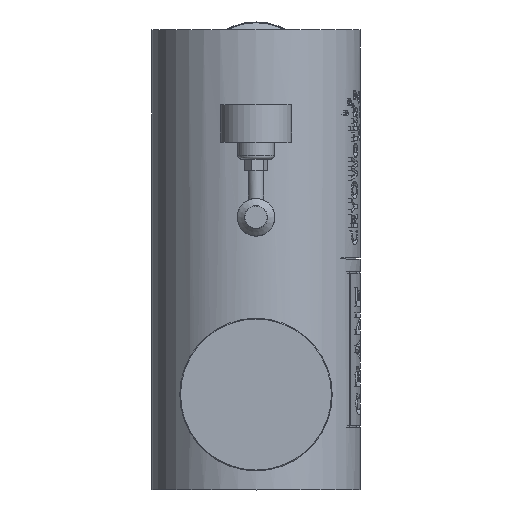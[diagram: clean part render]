
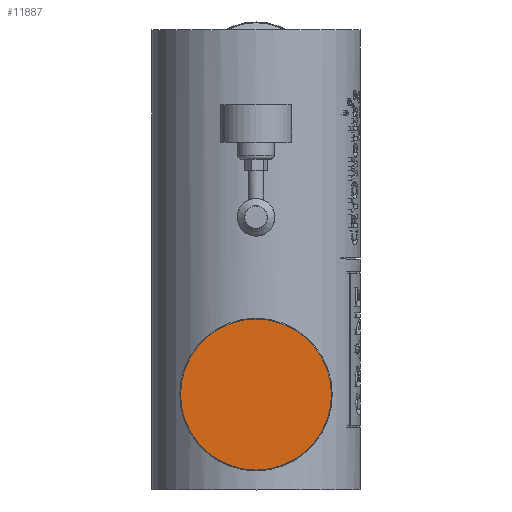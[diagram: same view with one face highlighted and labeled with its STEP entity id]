
A CAD part, top view. The second image highlights one B-rep face of the part: STEP entity #11887.
In plain terms, the highlighted planar face has unit normal (0, 0, 1).
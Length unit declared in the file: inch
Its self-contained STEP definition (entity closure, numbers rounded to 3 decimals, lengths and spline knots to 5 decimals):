
#364 = VERTEX_POINT ( 'NONE', #6966 ) ;
#3867 = AXIS2_PLACEMENT_3D ( 'NONE', #14362, #12075, #20956 ) ;
#5350 = ORIENTED_EDGE ( 'NONE', *, *, #26320, .T. ) ;
#6521 = AXIS2_PLACEMENT_3D ( 'NONE', #28360, #17044, #13190 ) ;
#6966 = CARTESIAN_POINT ( 'NONE',  ( 2.011, 0., 0. ) ) ;
#7767 = PLANE ( 'NONE',  #3867 ) ;
#9306 = CIRCLE ( 'NONE', #6521, 2.011 ) ;
#9645 = FACE_OUTER_BOUND ( 'NONE', #16318, .T. ) ;
#11887 = ADVANCED_FACE ( 'NONE', ( #9645 ), #7767, .T. ) ;
#12075 = DIRECTION ( 'NONE',  ( 0., 0., 1. ) ) ;
#13190 = DIRECTION ( 'NONE',  ( 1., 0., 0. ) ) ;
#14362 = CARTESIAN_POINT ( 'NONE',  ( 0., 2.031, 0. ) ) ;
#16318 = EDGE_LOOP ( 'NONE', ( #5350 ) ) ;
#17044 = DIRECTION ( 'NONE',  ( 0., 0., 1. ) ) ;
#20956 = DIRECTION ( 'NONE',  ( 1., 0., 0. ) ) ;
#26320 = EDGE_CURVE ( 'NONE', #364, #364, #9306, .T. ) ;
#28360 = CARTESIAN_POINT ( 'NONE',  ( 0., 0., 0. ) ) ;
